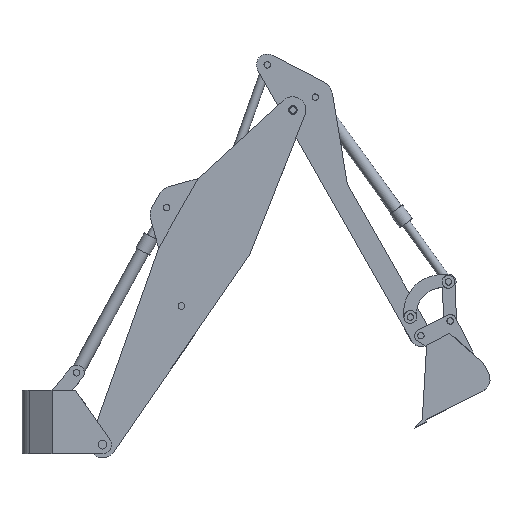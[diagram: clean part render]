
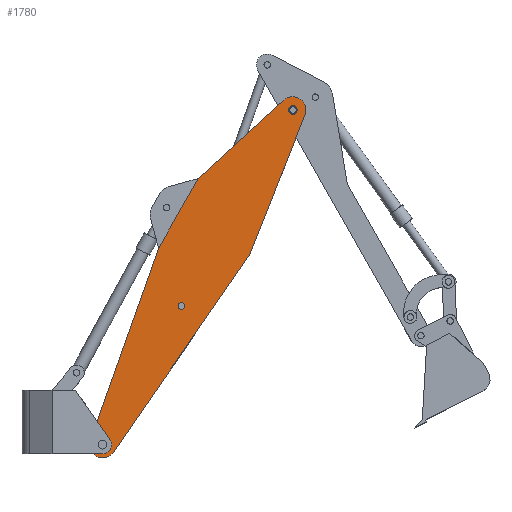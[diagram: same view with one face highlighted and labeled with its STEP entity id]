
A CAD part, top view. The second image highlights one B-rep face of the part: STEP entity #1780.
In plain terms, the highlighted planar face has unit normal (0, 0, 1).
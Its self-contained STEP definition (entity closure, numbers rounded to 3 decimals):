
#102 = CARTESIAN_POINT ( 'NONE',  ( 479.545, 569., 253. ) ) ;
#125 = CARTESIAN_POINT ( 'NONE',  ( 1679., 0., 253. ) ) ;
#334 = CARTESIAN_POINT ( 'NONE',  ( -2795., 0., 253. ) ) ;
#387 = VERTEX_POINT ( 'NONE', #9691 ) ;
#534 = EDGE_CURVE ( 'NONE', #8081, #4408, #9521, .T. ) ;
#655 = CARTESIAN_POINT ( 'NONE',  ( -461.25, 569., 253. ) ) ;
#702 = FACE_BOUND ( 'NONE', #2461, .T. ) ;
#794 = VECTOR ( 'NONE', #7906, 1000. ) ;
#812 = VERTEX_POINT ( 'NONE', #9485 ) ;
#859 = DIRECTION ( 'NONE',  ( 0., 0., 1. ) ) ;
#1048 = EDGE_CURVE ( 'NONE', #9710, #1723, #11330, .T. ) ;
#1049 = VERTEX_POINT ( 'NONE', #102 ) ;
#1054 = VERTEX_POINT ( 'NONE', #8117 ) ;
#1091 = ORIENTED_EDGE ( 'NONE', *, *, #8542, .T. ) ;
#1129 = LINE ( 'NONE', #4759, #5582 ) ;
#1172 = AXIS2_PLACEMENT_3D ( 'NONE', #4354, #859, #6155 ) ;
#1229 = DIRECTION ( 'NONE',  ( 1., 0., 0. ) ) ;
#1298 = CIRCLE ( 'NONE', #10973, 38. ) ;
#1321 = AXIS2_PLACEMENT_3D ( 'NONE', #2269, #7715, #6820 ) ;
#1395 = AXIS2_PLACEMENT_3D ( 'NONE', #5004, #11269, #5893 ) ;
#1409 = CARTESIAN_POINT ( 'NONE',  ( -920., 0., 253. ) ) ;
#1546 = CARTESIAN_POINT ( 'NONE',  ( 55.201, -392.231, 253. ) ) ;
#1554 = DIRECTION ( 'NONE',  ( 0., 0., 1. ) ) ;
#1723 = VERTEX_POINT ( 'NONE', #2121 ) ;
#1780 = ADVANCED_FACE ( 'NONE', ( #7384, #3065, #702, #4737 ), #8353, .T. ) ;
#1807 = VERTEX_POINT ( 'NONE', #5825 ) ;
#1808 = DIRECTION ( 'NONE',  ( 1., 0., 0. ) ) ;
#1845 = DIRECTION ( 'NONE',  ( 0., 0., 1. ) ) ;
#1906 = AXIS2_PLACEMENT_3D ( 'NONE', #8239, #6609, #3052 ) ;
#1972 = CARTESIAN_POINT ( 'NONE',  ( -34.713, -396.965, 253. ) ) ;
#1986 = CIRCLE ( 'NONE', #1395, 38. ) ;
#2016 = ORIENTED_EDGE ( 'NONE', *, *, #10169, .F. ) ;
#2121 = CARTESIAN_POINT ( 'NONE',  ( -2950., 0., 253. ) ) ;
#2238 = EDGE_CURVE ( 'NONE', #1723, #387, #10331, .T. ) ;
#2269 = CARTESIAN_POINT ( 'NONE',  ( 1730., 0., 253. ) ) ;
#2342 = DIRECTION ( 'NONE',  ( 1., 0., 0. ) ) ;
#2461 = EDGE_LOOP ( 'NONE', ( #8567, #4532 ) ) ;
#2615 = EDGE_CURVE ( 'NONE', #10823, #4851, #1986, .T. ) ;
#3052 = DIRECTION ( 'NONE',  ( 1., 0., 0. ) ) ;
#3065 = FACE_BOUND ( 'NONE', #10668, .T. ) ;
#3238 = VECTOR ( 'NONE', #9418, 1000. ) ;
#3252 = DIRECTION ( 'NONE',  ( 0.99, 0.139, 0. ) ) ;
#3422 = EDGE_CURVE ( 'NONE', #8615, #1807, #11328, .T. ) ;
#3643 = CARTESIAN_POINT ( 'NONE',  ( -2821.922, 152.644, 253. ) ) ;
#3668 = ORIENTED_EDGE ( 'NONE', *, *, #7073, .T. ) ;
#3711 = ORIENTED_EDGE ( 'NONE', *, *, #1048, .T. ) ;
#3824 = ORIENTED_EDGE ( 'NONE', *, *, #2615, .F. ) ;
#4354 = CARTESIAN_POINT ( 'NONE',  ( -2795., 0., 253. ) ) ;
#4408 = VERTEX_POINT ( 'NONE', #125 ) ;
#4532 = ORIENTED_EDGE ( 'NONE', *, *, #3422, .F. ) ;
#4629 = ORIENTED_EDGE ( 'NONE', *, *, #9088, .T. ) ;
#4678 = CIRCLE ( 'NONE', #1321, 155. ) ;
#4679 = DIRECTION ( 'NONE',  ( -1., 0., 0. ) ) ;
#4737 = FACE_OUTER_BOUND ( 'NONE', #11220, .T. ) ;
#4759 = CARTESIAN_POINT ( 'NONE',  ( 479.545, 569., 253. ) ) ;
#4763 = CARTESIAN_POINT ( 'NONE',  ( 1730., 0., 253. ) ) ;
#4774 = DIRECTION ( 'NONE',  ( 1., 0., 0. ) ) ;
#4851 = VERTEX_POINT ( 'NONE', #9573 ) ;
#4915 = CARTESIAN_POINT ( 'NONE',  ( 1777.869, 147.423, 253. ) ) ;
#5004 = CARTESIAN_POINT ( 'NONE',  ( -920., 0., 253. ) ) ;
#5114 = ORIENTED_EDGE ( 'NONE', *, *, #534, .F. ) ;
#5242 = AXIS2_PLACEMENT_3D ( 'NONE', #11129, #6663, #2342 ) ;
#5582 = VECTOR ( 'NONE', #4679, 1000. ) ;
#5618 = EDGE_LOOP ( 'NONE', ( #3824, #11066 ) ) ;
#5699 = CARTESIAN_POINT ( 'NONE',  ( 0., 0., 253. ) ) ;
#5825 = CARTESIAN_POINT ( 'NONE',  ( -2846., 0., 253. ) ) ;
#5893 = DIRECTION ( 'NONE',  ( 1., 0., 0. ) ) ;
#5899 = VECTOR ( 'NONE', #3252, 1000. ) ;
#5909 = CIRCLE ( 'NONE', #11285, 51. ) ;
#6054 = VECTOR ( 'NONE', #6415, 1000. ) ;
#6118 = AXIS2_PLACEMENT_3D ( 'NONE', #334, #6564, #4774 ) ;
#6155 = DIRECTION ( 'NONE',  ( 1., 0., 0. ) ) ;
#6244 = CARTESIAN_POINT ( 'NONE',  ( 1730., 0., 253. ) ) ;
#6290 = CARTESIAN_POINT ( 'NONE',  ( -882., 0., 253. ) ) ;
#6404 = EDGE_CURVE ( 'NONE', #1049, #7750, #1129, .T. ) ;
#6415 = DIRECTION ( 'NONE',  ( 0.996, -0.087, 0. ) ) ;
#6510 = LINE ( 'NONE', #11560, #794 ) ;
#6564 = DIRECTION ( 'NONE',  ( 0., 0., 1. ) ) ;
#6609 = DIRECTION ( 'NONE',  ( 0., 0., 1. ) ) ;
#6644 = ORIENTED_EDGE ( 'NONE', *, *, #6404, .T. ) ;
#6663 = DIRECTION ( 'NONE',  ( 0., 0., 1. ) ) ;
#6820 = DIRECTION ( 'NONE',  ( 1., 0., 0. ) ) ;
#7073 = EDGE_CURVE ( 'NONE', #812, #9842, #4678, .T. ) ;
#7142 = LINE ( 'NONE', #7732, #3238 ) ;
#7384 = FACE_BOUND ( 'NONE', #5618, .T. ) ;
#7688 = DIRECTION ( 'NONE',  ( 1., 0., 0. ) ) ;
#7715 = DIRECTION ( 'NONE',  ( 0., 0., 1. ) ) ;
#7728 = DIRECTION ( 'NONE',  ( 0., 0., 1. ) ) ;
#7732 = CARTESIAN_POINT ( 'NONE',  ( 212.876, 655.59, 253. ) ) ;
#7750 = VERTEX_POINT ( 'NONE', #655 ) ;
#7906 = DIRECTION ( 'NONE',  ( 0.985, 0.174, 0. ) ) ;
#7961 = ORIENTED_EDGE ( 'NONE', *, *, #10493, .T. ) ;
#8081 = VERTEX_POINT ( 'NONE', #9171 ) ;
#8117 = CARTESIAN_POINT ( 'NONE',  ( 0., -400., 253. ) ) ;
#8145 = EDGE_CURVE ( 'NONE', #4408, #8081, #5909, .T. ) ;
#8239 = CARTESIAN_POINT ( 'NONE',  ( -2795., 0., 253. ) ) ;
#8353 = PLANE ( 'NONE',  #11034 ) ;
#8542 = EDGE_CURVE ( 'NONE', #1054, #812, #9097, .T. ) ;
#8567 = ORIENTED_EDGE ( 'NONE', *, *, #10986, .F. ) ;
#8615 = VERTEX_POINT ( 'NONE', #9659 ) ;
#8642 = CIRCLE ( 'NONE', #6118, 51. ) ;
#9088 = EDGE_CURVE ( 'NONE', #9842, #1049, #7142, .T. ) ;
#9097 = LINE ( 'NONE', #1546, #5899 ) ;
#9123 = LINE ( 'NONE', #1972, #6054 ) ;
#9171 = CARTESIAN_POINT ( 'NONE',  ( 1781., 0., 253. ) ) ;
#9211 = DIRECTION ( 'NONE',  ( 0., 0., 1. ) ) ;
#9418 = DIRECTION ( 'NONE',  ( -0.951, 0.309, 0. ) ) ;
#9485 = CARTESIAN_POINT ( 'NONE',  ( 1751.601, -153.487, 253. ) ) ;
#9521 = CIRCLE ( 'NONE', #10140, 51. ) ;
#9573 = CARTESIAN_POINT ( 'NONE',  ( -958., 0., 253. ) ) ;
#9659 = CARTESIAN_POINT ( 'NONE',  ( -2744., 0., 253. ) ) ;
#9691 = CARTESIAN_POINT ( 'NONE',  ( -2808.502, -154.411, 253. ) ) ;
#9695 = ORIENTED_EDGE ( 'NONE', *, *, #8145, .F. ) ;
#9710 = VERTEX_POINT ( 'NONE', #3643 ) ;
#9842 = VERTEX_POINT ( 'NONE', #4915 ) ;
#9937 = EDGE_CURVE ( 'NONE', #4851, #10823, #1298, .T. ) ;
#10140 = AXIS2_PLACEMENT_3D ( 'NONE', #6244, #1845, #1808 ) ;
#10169 = EDGE_CURVE ( 'NONE', #9710, #7750, #6510, .T. ) ;
#10331 = CIRCLE ( 'NONE', #1172, 155. ) ;
#10401 = ORIENTED_EDGE ( 'NONE', *, *, #2238, .T. ) ;
#10493 = EDGE_CURVE ( 'NONE', #387, #1054, #9123, .T. ) ;
#10668 = EDGE_LOOP ( 'NONE', ( #9695, #5114 ) ) ;
#10823 = VERTEX_POINT ( 'NONE', #6290 ) ;
#10973 = AXIS2_PLACEMENT_3D ( 'NONE', #1409, #1554, #11296 ) ;
#10986 = EDGE_CURVE ( 'NONE', #1807, #8615, #8642, .T. ) ;
#11034 = AXIS2_PLACEMENT_3D ( 'NONE', #5699, #7728, #7688 ) ;
#11066 = ORIENTED_EDGE ( 'NONE', *, *, #9937, .F. ) ;
#11129 = CARTESIAN_POINT ( 'NONE',  ( -2795., 0., 253. ) ) ;
#11220 = EDGE_LOOP ( 'NONE', ( #4629, #6644, #2016, #3711, #10401, #7961, #1091, #3668 ) ) ;
#11269 = DIRECTION ( 'NONE',  ( 0., 0., 1. ) ) ;
#11285 = AXIS2_PLACEMENT_3D ( 'NONE', #4763, #9211, #1229 ) ;
#11296 = DIRECTION ( 'NONE',  ( 1., 0., 0. ) ) ;
#11328 = CIRCLE ( 'NONE', #5242, 51. ) ;
#11330 = CIRCLE ( 'NONE', #1906, 155. ) ;
#11560 = CARTESIAN_POINT ( 'NONE',  ( -111.243, 630.731, 253. ) ) ;
